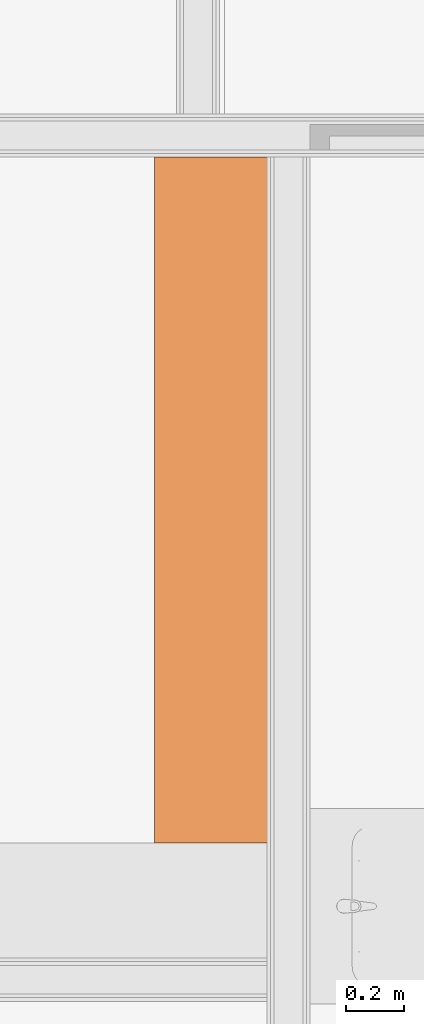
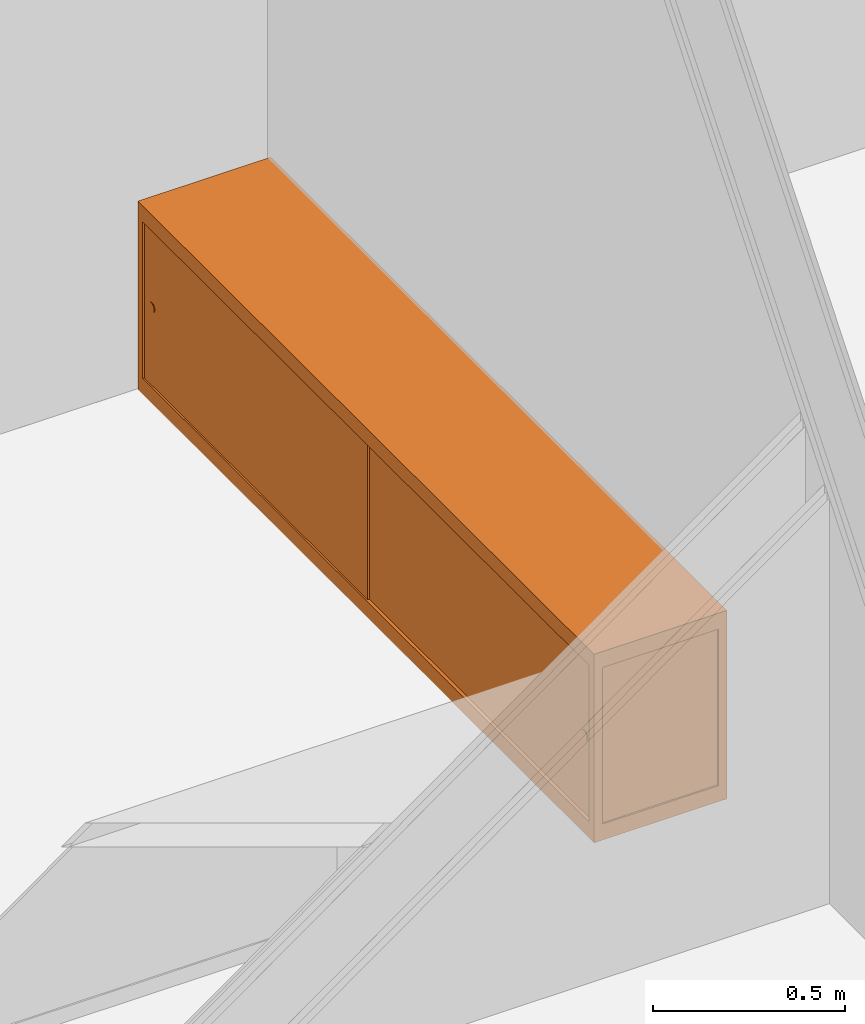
# One storey, part 109 of 109: 1 proxy.
"""IFC2X3 building model written with IfcOpenShell, lengths in millimetres."""

import ifcopenshell
import ifcopenshell.guid

model = None  # the IFC model being written
_history = None  # IfcOwnerHistory: only IFC2X3 demands one
_inside = {}  # id of a spatial element -> (the spatial element, [elements in it])
_under = {}  # id of a project, library or spatial element -> (it, [spatial elements below it])
_declared = {}  # id of a project -> (the project, [libraries it declares])
_typed = {}  # id of a type object -> (the type object, [elements of that type])
_made_of = {}  # id of a material, layer set ... -> (it, [elements and type objects made of it])


def new_model(schema):
    """Start an empty IFC model of exactly this schema.

    Asked for "IFC4X3", IfcOpenShell would pick the latest addendum, in which some entities
    have other attributes; the version numbers below select the first issue.
    IFC2X3 requires an IfcOwnerHistory on every rooted entity: one is made here for all.
    """
    global model, _history
    if schema == "IFC4X3":
        model = ifcopenshell.file(schema_version=(4, 3, 0, 0))
    else:
        model = ifcopenshell.file(schema=schema)
    _inside.clear()
    _under.clear()
    _declared.clear()
    _typed.clear()
    _made_of.clear()
    _history = None
    if model.schema == "IFC2X3":
        org = make("IfcOrganization", Name="unknown")
        user = make(
            "IfcPersonAndOrganization",
            ThePerson=make("IfcPerson", FamilyName="unknown"),
            TheOrganization=org,
        )
        app = make(
            "IfcApplication",
            ApplicationDeveloper=org,
            Version="unknown",
            ApplicationFullName="unknown",
            ApplicationIdentifier="unknown",
        )
        _history = make(
            "IfcOwnerHistory",
            OwningUser=user,
            OwningApplication=app,
            ChangeAction="ADDED",
            CreationDate=0,
        )
    return model


def make(cls, **values):
    """One entity of the class cls with the attributes given. An attribute that is None is left unset."""
    return model.create_entity(
        cls, **{name: value for name, value in values.items() if value is not None}
    )


def entity(cls, *values):
    """Any entity or typed value of the class cls, its attributes in the order of the schema. None: left unset."""
    e = model.create_entity(cls)
    for i, value in enumerate(values):
        if value is not None:
            e[i] = value
    return e


def rooted(cls, **values):
    """An entity with a GlobalId (a new one), such as an element, a storey or a relation."""
    return make(cls, GlobalId=ifcopenshell.guid.new(), OwnerHistory=_history, **values)


def si_unit(unit_type, name, prefix=None):
    """IfcSIUnit, for example si_unit("LENGTHUNIT", "METRE", prefix="MILLI")."""
    return make("IfcSIUnit", UnitType=unit_type, Prefix=prefix, Name=name)


def converted_unit(unit_type, name, factor, base, dimensions=None, offset=None):
    """IfcConversionBasedUnit, such as the inch: factor (a typed value) times the base unit."""
    return make(
        "IfcConversionBasedUnit"
        if offset is None
        else "IfcConversionBasedUnitWithOffset",
        ConversionOffset=offset,
        Dimensions=None
        if dimensions is None
        else entity("IfcDimensionalExponents", *dimensions),
        UnitType=unit_type,
        Name=name,
        ConversionFactor=make(
            "IfcMeasureWithUnit", ValueComponent=factor, UnitComponent=base
        ),
    )


def derived_unit(unit_type, elements):
    """IfcDerivedUnit: a product of units, each with its exponent."""
    return make(
        "IfcDerivedUnit",
        Elements=[
            make("IfcDerivedUnitElement", Unit=unit, Exponent=power)
            for unit, power in elements
        ],
        UnitType=unit_type,
    )


def money_unit(currency):
    """IfcMonetaryUnit."""
    return make("IfcMonetaryUnit", Currency=currency)


def assignment(units):
    """IfcUnitAssignment: the units of a project."""
    return None if units is None else make("IfcUnitAssignment", Units=units)


def point(xyz):
    """IfcCartesianPoint."""
    return None if xyz is None else make("IfcCartesianPoint", Coordinates=xyz)


def direction(xyz):
    """IfcDirection."""
    return None if xyz is None else make("IfcDirection", DirectionRatios=xyz)


def frame(location, z_axis=None, x_axis=None):
    """IfcAxis2Placement3D, a coordinate frame: its origin and axes. An axis left out is left unset."""
    return make(
        "IfcAxis2Placement3D",
        Location=point(location),
        Axis=direction(z_axis),
        RefDirection=direction(x_axis),
    )


def origin_with_axes():
    """The frame at (0, 0, 0) with the z axis (0, 0, 1) and the x axis (1, 0, 0) written out."""
    return frame((0.0, 0.0, 0.0), z_axis=(0.0, 0.0, 1.0), x_axis=(1.0, 0.0, 0.0))


def place(relative_to, where):
    """IfcLocalPlacement: puts the frame where relative to a parent placement (None: the world)."""
    return make(
        "IfcLocalPlacement", PlacementRelTo=relative_to, RelativePlacement=where
    )


def context(
    kind, dimensions, precision=None, world=None, true_north=None, identifier=None
):
    """IfcGeometricRepresentationContext, for example the 3D "Model" context."""
    return make(
        "IfcGeometricRepresentationContext",
        ContextIdentifier=identifier,
        ContextType=kind,
        CoordinateSpaceDimension=dimensions,
        Precision=precision,
        WorldCoordinateSystem=world,
        TrueNorth=true_north,
    )


def subcontext(parent, identifier, kind, view, scale=None):
    """IfcGeometricRepresentationSubContext, for example "Body" below "Model"."""
    return make(
        "IfcGeometricRepresentationSubContext",
        ContextIdentifier=identifier,
        ContextType=kind,
        ParentContext=parent,
        TargetScale=scale,
        TargetView=view,
    )


def project(units=None, contexts=None):
    """IfcProject with its units and contexts."""
    return rooted(
        "IfcProject",
        Name="project",
        RepresentationContexts=contexts,
        UnitsInContext=assignment(units),
    )


def spatial(cls, under=None, at=None, **own):
    """A site, building, storey or space (cls), placed at a placement, below another one or the project."""
    s = rooted(cls, ObjectPlacement=at, **own)
    if under is not None:
        _under.setdefault(under.id(), (under, []))[1].append(s)
    return s


def faces_of(points, faces, orient=None, outer=None):
    """IfcFace entities. A face is a list of loops; a loop is a list of indices into points, from 0.

    orient and outer hold one flag for each loop. By default every Orientation is true, the
    first loop of a face is its IfcFaceOuterBound and the others are IfcFaceBound.
    """
    made = []
    for i, loops in enumerate(faces):
        bounds = []
        for j, loop in enumerate(loops):
            is_outer = j == 0 if outer is None else outer[i][j]
            bounds.append(
                make(
                    "IfcFaceOuterBound" if is_outer else "IfcFaceBound",
                    Bound=make("IfcPolyLoop", Polygon=[points[k] for k in loop]),
                    Orientation=True if orient is None else orient[i][j],
                )
            )
        made.append(make("IfcFace", Bounds=bounds))
    return made


def faceted_brep(points, faces, orient=None, outer=None, voids=None):
    """IfcFacetedBrep: a solid bounded by flat faces; with voids (closed shells), ...WithVoids."""
    shared = [point(p) for p in points]
    hull = make("IfcClosedShell", CfsFaces=faces_of(shared, faces, orient, outer))
    if voids is None:
        return make("IfcFacetedBrep", Outer=hull)
    return make(
        "IfcFacetedBrepWithVoids",
        Outer=hull,
        Voids=[
            make(cls, CfsFaces=faces_of(shared, fs, o, b)) for cls, fs, o, b in voids
        ],
    )


def shape(context_of_items, identifier, shape_type, items):
    """IfcShapeRepresentation: the items that make up one representation, for example the "Body"."""
    return make(
        "IfcShapeRepresentation",
        ContextOfItems=context_of_items,
        RepresentationIdentifier=identifier,
        RepresentationType=shape_type,
        Items=items,
    )


def made_of(thing, what):
    """Note that an element or type object is made of a material, layer set ...; save() writes the relation."""
    if what is not None:
        _made_of.setdefault(what.id(), (what, []))[1].append(thing)
    return thing


def type_object(cls, material=None, **own):
    """A type object (cls), such as IfcWallType, which elements share."""
    return made_of(rooted(cls, **own), material)


def element(
    cls,
    number,
    at=None,
    inside=None,
    cuts=None,
    type_object=None,
    material=None,
    context=None,
    identifier="Body",
    shape_type=None,
    held_by="IfcProductDefinitionShape",
    body=None,
    shapes=None,
    **own,
):
    """One element of the class cls, such as IfcWall. Its Tag is "e" and its number.

    at: its placement. inside: the storey or other place that contains it. cuts: it is an
    opening in that element (IfcRelVoidsElement). A single representation is given by context,
    identifier, shape_type and body (its items); several are given by shapes. held_by: the class
    of the entity that holds the representations. save() writes the other relations.
    """
    e = rooted(cls, Tag="e%d" % number, ObjectPlacement=at, **own)
    if body is not None:
        shapes = [shape(context, identifier, shape_type, body)]
    if shapes is not None:
        e.Representation = make(held_by, Representations=shapes)
    if inside is not None:
        _inside.setdefault(inside.id(), (inside, []))[1].append(e)
    if cuts is not None:
        rooted(
            "IfcRelVoidsElement", RelatingBuildingElement=cuts, RelatedOpeningElement=e
        )
    if type_object is not None:
        _typed.setdefault(type_object.id(), (type_object, []))[1].append(e)
    return made_of(e, material)


def aggregate(whole, parts):
    """IfcRelAggregates: a whole, such as a stair, and the parts it consists of."""
    return rooted("IfcRelAggregates", RelatingObject=whole, RelatedObjects=parts)


def save(model, path):
    """Write the relations noted so far, then the file.

    IfcRelAggregates (storeys below a building ...), IfcRelContainedInSpatialStructure (elements
    in a storey), IfcRelDefinesByType, IfcRelAssociatesMaterial and IfcRelDeclares: one each for
    every whole, place, type object, material and project.
    """
    for whole, parts in _under.values():
        aggregate(whole, parts)
    for where, things in _inside.values():
        rooted(
            "IfcRelContainedInSpatialStructure",
            RelatedElements=things,
            RelatingStructure=where,
        )
    for kind, things in _typed.values():
        rooted("IfcRelDefinesByType", RelatedObjects=things, RelatingType=kind)
    for what, things in _made_of.values():
        rooted("IfcRelAssociatesMaterial", RelatedObjects=things, RelatingMaterial=what)
    for by, libraries in _declared.values():
        rooted("IfcRelDeclares", RelatingContext=by, RelatedDefinitions=libraries)
    model.write(path)


model = new_model("IFC2X3")

# Units and contexts
model_context = context("Model", 3, precision=0.01, world=origin_with_axes(), true_north=direction((0.0, 1.0)))
body_context = subcontext(model_context, "Body", "Model", "MODEL_VIEW")
ifc_project = project(units=[si_unit("LENGTHUNIT", "METRE", prefix="MILLI"), si_unit("AREAUNIT", "SQUARE_METRE"), si_unit("VOLUMEUNIT", "CUBIC_METRE"), converted_unit("PLANEANGLEUNIT", "DEGREE", entity("IfcPlaneAngleMeasure", 0.0174532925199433), si_unit("PLANEANGLEUNIT", "RADIAN"), dimensions=[0, 0, 0, 0, 0, 0, 0]), money_unit("EUR"), converted_unit("TIMEUNIT", "Year", entity("IfcTimeMeasure", 31557600.0), si_unit("TIMEUNIT", "SECOND"), dimensions=[0, 0, 1, 0, 0, 0, 0]), si_unit("MASSUNIT", "GRAM", prefix="KILO"), si_unit("THERMODYNAMICTEMPERATUREUNIT", "DEGREE_CELSIUS"), si_unit("LUMINOUSINTENSITYUNIT", "LUMEN"), si_unit("ENERGYUNIT", "JOULE", prefix="MEGA"), derived_unit("THERMALCONDUCTANCEUNIT", [(si_unit("POWERUNIT", "WATT"), 1), (si_unit("LENGTHUNIT", "METRE"), -1), (si_unit("THERMODYNAMICTEMPERATUREUNIT", "KELVIN"), -1)]), derived_unit("SPECIFICHEATCAPACITYUNIT", [(si_unit("ENERGYUNIT", "JOULE"), 1), (si_unit("MASSUNIT", "GRAM", prefix="KILO"), -1), (si_unit("THERMODYNAMICTEMPERATUREUNIT", "KELVIN"), -1)]), derived_unit("MASSDENSITYUNIT", [(si_unit("MASSUNIT", "GRAM", prefix="KILO"), 1), (si_unit("VOLUMEUNIT", "CUBIC_METRE"), -1)])], contexts=[model_context])

# Site, building, storey
site_placement = place(None, origin_with_axes())
site = spatial("IfcSite", under=ifc_project, at=site_placement, Name="<site naam>", CompositionType="ELEMENT")
building_placement = place(site_placement, origin_with_axes())
building = spatial("IfcBuilding", under=site, at=building_placement, Name="<Naam gebouw>", CompositionType="ELEMENT")
storey_placement = place(building_placement, origin_with_axes())
storey = spatial("IfcBuildingStorey", under=building, at=storey_placement, Name="00 Begane grond", CompositionType="ELEMENT", Elevation=0.0)

# Proxy
building_element_proxy_type = type_object("IfcBuildingElementProxyType", Name="Boekenkast 04 27 KM", PredefinedType="USERDEFINED")
proxy_placement = place(storey_placement, frame((55300.00002384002, 13544.99999810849, 0.0), z_axis=(0.0, 0.0, 1.0), x_axis=(0.0, -1.0, 0.0)))
element("IfcBuildingElementProxy", 1, at=proxy_placement, inside=storey, type_object=building_element_proxy_type, Name="72_Brandslanghaspelkast_Lege", ObjectType="Massing", context=body_context, shape_type="Brep", body=[
    faceted_brep([(0.0, 0.0, 0.0), (0.0, 0.0, 600.0), (-25.4, 0.0, 600.0), (-25.4, 0.0, 0.0), (0.0, 25.4, 0.0), (0.0, 25.4, 600.0), (-5.0, 25.4, 600.0), (-5.0, 5.0, 600.0), (-25.4, 5.0, 600.0), (-25.4, 5.0, 0.0), (-5.0, 5.0, 0.0), (-5.0, 25.4, 0.0)], [[[0, 1, 2, 3]], [[4, 5, 1, 0]], [[1, 5, 6, 7, 8, 2]], [[3, 2, 8, 9]], [[0, 3, 9, 10, 11, 4]], [[11, 6, 5, 4]], [[10, 7, 6, 11]], [[9, 8, 7, 10]]]),
    faceted_brep([(-2379.999781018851, 25.4, 0.0), (-2379.999781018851, 25.4, 600.0), (-2374.999781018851, 25.4, 600.0), (-2374.999781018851, 25.4, 0.0), (-2379.999781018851, 0.0, 0.0), (-2379.999781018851, 0.0, 600.0), (-2354.599781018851, 0.0, 600.0), (-2354.599781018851, 5.0, 600.0), (-2374.999781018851, 5.0, 600.0), (-2374.999781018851, 5.0, 0.0), (-2354.599781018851, 5.0, 0.0), (-2354.599781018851, 0.0, 0.0)], [[[0, 1, 2, 3]], [[4, 5, 1, 0]], [[1, 5, 6, 7, 8, 2]], [[3, 2, 8, 9]], [[0, 3, 9, 10, 11, 4]], [[11, 6, 5, 4]], [[10, 7, 6, 11]], [[9, 8, 7, 10]]]),
    faceted_brep([(0.0, 374.5999701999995, 0.0), (0.0, 374.5999701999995, 600.0), (-5.0, 374.5999701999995, 600.0), (-5.0, 374.5999701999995, 0.0), (0.0, 399.9999701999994, 0.0), (0.0, 399.9999701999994, 600.0), (-25.4, 399.9999701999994, 600.0), (-25.4, 394.9999701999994, 600.0), (-5.0, 394.9999701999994, 600.0), (-5.0, 394.9999701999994, 0.0), (-25.4, 394.9999701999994, 0.0), (-25.4, 399.9999701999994, 0.0)], [[[0, 1, 2, 3]], [[4, 5, 1, 0]], [[1, 5, 6, 7, 8, 2]], [[3, 2, 8, 9]], [[0, 3, 9, 10, 11, 4]], [[11, 6, 5, 4]], [[10, 7, 6, 11]], [[9, 8, 7, 10]]]),
    faceted_brep([(-2379.999781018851, 399.9999701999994, 0.0), (-2379.999781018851, 399.9999701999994, 600.0), (-2354.599781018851, 399.9999701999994, 600.0), (-2354.599781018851, 399.9999701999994, 0.0), (-2379.999781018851, 374.5999701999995, 0.0), (-2379.999781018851, 374.5999701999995, 600.0), (-2374.999781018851, 374.5999701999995, 600.0), (-2374.999781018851, 394.9999701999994, 600.0), (-2354.599781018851, 394.9999701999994, 600.0), (-2354.599781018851, 394.9999701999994, 0.0), (-2374.999781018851, 394.9999701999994, 0.0), (-2374.999781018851, 374.5999701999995, 0.0)], [[[0, 1, 2, 3]], [[4, 5, 1, 0]], [[1, 5, 6, 7, 8, 2]], [[3, 2, 8, 9]], [[0, 3, 9, 10, 11, 4]], [[11, 6, 5, 4]], [[10, 7, 6, 11]], [[9, 8, 7, 10]]]),
    faceted_brep([(-5.0, 394.9999701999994, 0.0), (-5.0, 389.9999701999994, 0.0), (-2374.999781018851, 389.9999701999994, 0.0), (-2374.999781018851, 394.9999701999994, 0.0), (-5.0, 394.9999701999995, 549.2), (-5.0, 389.9999701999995, 549.2), (-2374.999781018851, 389.9999701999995, 549.2), (-2374.999781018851, 394.9999701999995, 549.2)], [[[0, 1, 2, 3]], [[4, 5, 1, 0]], [[1, 5, 6, 2]], [[3, 2, 6, 7]], [[0, 3, 7, 4]], [[7, 6, 5, 4]]]),
    faceted_brep([(-10.0, 389.9999701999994, 0.0), (-5.0, 389.9999701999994, 0.0), (-5.000000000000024, 5.000000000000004, 0.0), (-10.00000000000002, 5.000000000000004, 0.0), (-10.0, 389.9999701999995, 549.2), (-5.0, 389.9999701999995, 549.2), (-5.000000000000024, 5.00000000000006, 549.2), (-10.00000000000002, 5.00000000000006, 549.2)], [[[0, 1, 2, 3]], [[4, 5, 1, 0]], [[1, 5, 6, 2]], [[3, 2, 6, 7]], [[0, 3, 7, 4]], [[7, 6, 5, 4]]]),
    faceted_brep([(-2374.99978101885, 389.9999701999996, 0.0), (-2369.999781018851, 389.9999701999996, 0.0), (-2369.999781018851, 5.000000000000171, 0.0), (-2374.99978101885, 5.000000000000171, 0.0), (-2374.99978101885, 389.9999701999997, 549.2), (-2369.999781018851, 389.9999701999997, 549.2), (-2369.999781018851, 5.000000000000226, 549.2), (-2374.99978101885, 5.000000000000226, 549.2)], [[[0, 1, 2, 3]], [[4, 5, 1, 0]], [[1, 5, 6, 2]], [[3, 2, 6, 7]], [[0, 3, 7, 4]], [[7, 6, 5, 4]]]),
    faceted_brep([(-10.0, 10.0, 50.8), (-10.0, 10.0, 549.1999999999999), (-1189.999890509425, 10.0, 549.1999999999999), (-1189.999890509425, 10.0, 50.8), (-10.0, 15.0, 50.8), (-10.0, 15.0, 549.1999999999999), (-1189.999890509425, 15.0, 549.1999999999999), (-1189.999890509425, 15.0, 50.8)], [[[0, 1, 2, 3]], [[4, 5, 1, 0]], [[1, 5, 6, 2]], [[3, 2, 6, 7]], [[0, 3, 7, 4]], [[7, 6, 5, 4]]]),
    faceted_brep([(-1189.999890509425, 5.0, 50.8), (-1189.999890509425, 5.0, 549.1999999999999), (-2369.999781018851, 5.0, 549.1999999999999), (-2369.999781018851, 5.0, 50.8), (-1189.999890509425, 10.0, 50.8), (-1189.999890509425, 10.0, 549.1999999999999), (-2369.999781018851, 10.0, 549.1999999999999), (-2369.999781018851, 10.0, 50.8)], [[[0, 1, 2, 3]], [[4, 5, 1, 0]], [[1, 5, 6, 2]], [[3, 2, 6, 7]], [[0, 3, 7, 4]], [[7, 6, 5, 4]]]),
    faceted_brep([(-80.17211629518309, 10.00000000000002, 297.395277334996), (-80.4, 10.00000000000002, 300.0), (-80.17211629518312, 10.00000000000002, 302.6047226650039), (-79.49538931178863, 10.00000000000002, 305.130302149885), (-78.39038105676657, 10.00000000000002, 307.5), (-76.89066664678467, 10.00000000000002, 309.641814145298), (-75.04181414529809, 10.00000000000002, 311.4906666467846), (-72.89999999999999, 10.00000000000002, 312.9903810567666), (-70.53030214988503, 10.00000000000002, 314.0953893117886), (-68.00472266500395, 10.00000000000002, 314.7721162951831), (-65.4, 10.00000000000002, 315.0), (-62.79527733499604, 10.00000000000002, 314.7721162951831), (-60.26969785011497, 10.00000000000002, 314.0953893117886), (-57.90000000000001, 10.00000000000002, 312.9903810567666), (-55.75818585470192, 10.00000000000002, 311.4906666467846), (-53.90933335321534, 10.00000000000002, 309.641814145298), (-52.40961894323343, 10.00000000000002, 307.5), (-51.30461068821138, 10.00000000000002, 305.130302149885), (-50.62788370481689, 10.00000000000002, 302.6047226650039), (-50.40000000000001, 10.00000000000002, 300.0), (-50.62788370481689, 10.00000000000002, 297.395277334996), (-51.30461068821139, 10.00000000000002, 294.869697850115), (-52.40961894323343, 10.00000000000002, 292.5), (-53.90933335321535, 10.00000000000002, 290.3581858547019), (-55.75818585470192, 10.00000000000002, 288.5093333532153), (-57.90000000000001, 10.00000000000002, 287.0096189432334), (-60.26969785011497, 10.00000000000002, 285.9046106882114), (-62.79527733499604, 10.00000000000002, 285.2278837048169), (-65.4, 10.00000000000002, 285.0000000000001), (-68.00472266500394, 10.00000000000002, 285.2278837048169), (-70.53030214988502, 10.00000000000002, 285.9046106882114), (-72.89999999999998, 10.00000000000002, 287.0096189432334), (-75.04181414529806, 10.00000000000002, 288.5093333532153), (-76.89066664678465, 10.00000000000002, 290.3581858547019), (-78.39038105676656, 10.00000000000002, 292.5), (-79.4953893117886, 10.00000000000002, 294.869697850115), (-80.17211629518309, 8.00000000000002, 297.395277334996), (-80.4, 8.00000000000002, 300.0), (-80.17211629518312, 8.00000000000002, 302.6047226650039), (-79.49538931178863, 8.00000000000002, 305.130302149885), (-78.39038105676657, 8.00000000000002, 307.5), (-76.89066664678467, 8.00000000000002, 309.641814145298), (-75.04181414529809, 8.000000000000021, 311.4906666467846), (-72.89999999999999, 8.000000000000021, 312.9903810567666), (-70.53030214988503, 8.000000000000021, 314.0953893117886), (-68.00472266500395, 8.000000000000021, 314.7721162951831), (-65.4, 8.000000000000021, 315.0), (-62.79527733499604, 8.000000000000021, 314.7721162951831), (-60.26969785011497, 8.000000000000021, 314.0953893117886), (-57.90000000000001, 8.000000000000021, 312.9903810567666), (-55.75818585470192, 8.000000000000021, 311.4906666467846), (-53.90933335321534, 8.00000000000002, 309.641814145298), (-52.40961894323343, 8.00000000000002, 307.5), (-51.30461068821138, 8.00000000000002, 305.130302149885), (-50.62788370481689, 8.00000000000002, 302.6047226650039), (-50.40000000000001, 8.00000000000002, 300.0), (-50.62788370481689, 8.00000000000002, 297.395277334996), (-51.30461068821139, 8.00000000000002, 294.869697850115), (-52.40961894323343, 8.00000000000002, 292.5), (-53.90933335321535, 8.00000000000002, 290.3581858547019), (-55.75818585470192, 8.000000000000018, 288.5093333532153), (-57.90000000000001, 8.000000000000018, 287.0096189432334), (-60.26969785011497, 8.000000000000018, 285.9046106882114), (-62.79527733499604, 8.000000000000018, 285.2278837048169), (-65.4, 8.000000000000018, 285.0000000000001), (-68.00472266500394, 8.000000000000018, 285.2278837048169), (-70.53030214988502, 8.000000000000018, 285.9046106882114), (-72.89999999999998, 8.000000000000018, 287.0096189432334), (-75.04181414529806, 8.000000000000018, 288.5093333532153), (-76.89066664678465, 8.00000000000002, 290.3581858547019), (-78.39038105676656, 8.00000000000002, 292.5), (-79.4953893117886, 8.00000000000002, 294.869697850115)], [[[0, 1, 2, 3, 4, 5, 6, 7, 8, 9, 10, 11, 12, 13, 14, 15, 16, 17, 18, 19, 20, 21, 22, 23, 24, 25, 26, 27, 28, 29, 30, 31, 32, 33, 34, 35]], [[0, 36, 37, 1]], [[1, 37, 38, 2]], [[2, 38, 39, 3]], [[3, 39, 40, 4]], [[4, 40, 41, 5]], [[5, 41, 42, 6]], [[6, 42, 43, 7]], [[7, 43, 44, 8]], [[8, 44, 45, 9]], [[9, 45, 46, 10]], [[10, 46, 47, 11]], [[11, 47, 48, 12]], [[12, 48, 49, 13]], [[13, 49, 50, 14]], [[14, 50, 51, 15]], [[15, 51, 52, 16]], [[16, 52, 53, 17]], [[17, 53, 54, 18]], [[18, 54, 55, 19]], [[19, 55, 56, 20]], [[20, 56, 57, 21]], [[21, 57, 58, 22]], [[22, 58, 59, 23]], [[23, 59, 60, 24]], [[24, 60, 61, 25]], [[25, 61, 62, 26]], [[26, 62, 63, 27]], [[27, 63, 64, 28]], [[28, 64, 65, 29]], [[29, 65, 66, 30]], [[30, 66, 67, 31]], [[31, 67, 68, 32]], [[32, 68, 69, 33]], [[33, 69, 70, 34]], [[34, 70, 71, 35]], [[35, 71, 36, 0]], [[36, 71, 70, 69, 68, 67, 66, 65, 64, 63, 62, 61, 60, 59, 58, 57, 56, 55, 54, 53, 52, 51, 50, 49, 48, 47, 46, 45, 44, 43, 42, 41, 40, 39, 38, 37]]]),
    faceted_brep([(-2329.371897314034, 5.00000000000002, 297.395277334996), (-2329.599781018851, 5.00000000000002, 300.0), (-2329.371897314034, 5.00000000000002, 302.6047226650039), (-2328.695170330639, 5.00000000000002, 305.130302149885), (-2327.590162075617, 5.00000000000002, 307.5), (-2326.090447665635, 5.00000000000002, 309.641814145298), (-2324.241595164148, 5.00000000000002, 311.4906666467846), (-2322.09978101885, 5.00000000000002, 312.9903810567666), (-2319.730083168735, 5.00000000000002, 314.0953893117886), (-2317.204503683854, 5.00000000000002, 314.7721162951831), (-2314.599781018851, 5.00000000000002, 315.0), (-2311.995058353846, 5.00000000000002, 314.7721162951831), (-2309.469478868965, 5.00000000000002, 314.0953893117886), (-2307.099781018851, 5.00000000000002, 312.9903810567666), (-2304.957966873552, 5.00000000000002, 311.4906666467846), (-2303.109114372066, 5.00000000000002, 309.641814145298), (-2301.609399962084, 5.00000000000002, 307.5), (-2300.504391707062, 5.00000000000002, 305.130302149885), (-2299.827664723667, 5.00000000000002, 302.6047226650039), (-2299.59978101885, 5.00000000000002, 300.0), (-2299.827664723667, 5.00000000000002, 297.395277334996), (-2300.504391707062, 5.00000000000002, 294.869697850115), (-2301.609399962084, 5.000000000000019, 292.5), (-2303.109114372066, 5.000000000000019, 290.3581858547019), (-2304.957966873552, 5.000000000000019, 288.5093333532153), (-2307.099781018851, 5.000000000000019, 287.0096189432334), (-2309.469478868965, 5.000000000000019, 285.9046106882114), (-2311.995058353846, 5.000000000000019, 285.2278837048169), (-2314.599781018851, 5.000000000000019, 285.0000000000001), (-2317.204503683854, 5.000000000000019, 285.2278837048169), (-2319.730083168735, 5.000000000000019, 285.9046106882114), (-2322.09978101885, 5.000000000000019, 287.0096189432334), (-2324.241595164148, 5.000000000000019, 288.5093333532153), (-2326.090447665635, 5.000000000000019, 290.3581858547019), (-2327.590162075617, 5.000000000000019, 292.5), (-2328.695170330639, 5.00000000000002, 294.869697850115), (-2329.371897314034, 3.000000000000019, 297.395277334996), (-2329.599781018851, 3.000000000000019, 300.0), (-2329.371897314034, 3.000000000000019, 302.6047226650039), (-2328.695170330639, 3.00000000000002, 305.130302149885), (-2327.590162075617, 3.00000000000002, 307.5), (-2326.090447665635, 3.00000000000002, 309.641814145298), (-2324.241595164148, 3.00000000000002, 311.4906666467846), (-2322.09978101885, 3.00000000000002, 312.9903810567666), (-2319.730083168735, 3.00000000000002, 314.0953893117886), (-2317.204503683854, 3.00000000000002, 314.7721162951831), (-2314.599781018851, 3.00000000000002, 315.0), (-2311.995058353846, 3.00000000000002, 314.7721162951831), (-2309.469478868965, 3.00000000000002, 314.0953893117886), (-2307.099781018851, 3.00000000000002, 312.9903810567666), (-2304.957966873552, 3.00000000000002, 311.4906666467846), (-2303.109114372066, 3.00000000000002, 309.641814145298), (-2301.609399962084, 3.00000000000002, 307.5), (-2300.504391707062, 3.00000000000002, 305.130302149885), (-2299.827664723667, 3.000000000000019, 302.6047226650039), (-2299.59978101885, 3.000000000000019, 300.0), (-2299.827664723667, 3.000000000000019, 297.395277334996), (-2300.504391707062, 3.000000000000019, 294.869697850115), (-2301.609399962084, 3.000000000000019, 292.5), (-2303.109114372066, 3.000000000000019, 290.3581858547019), (-2304.957966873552, 3.000000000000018, 288.5093333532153), (-2307.099781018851, 3.000000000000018, 287.0096189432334), (-2309.469478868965, 3.000000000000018, 285.9046106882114), (-2311.995058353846, 3.000000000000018, 285.2278837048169), (-2314.599781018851, 3.000000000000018, 285.0000000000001), (-2317.204503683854, 3.000000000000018, 285.2278837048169), (-2319.730083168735, 3.000000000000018, 285.9046106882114), (-2322.09978101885, 3.000000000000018, 287.0096189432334), (-2324.241595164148, 3.000000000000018, 288.5093333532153), (-2326.090447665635, 3.000000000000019, 290.3581858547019), (-2327.590162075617, 3.000000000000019, 292.5), (-2328.695170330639, 3.000000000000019, 294.869697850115)], [[[0, 1, 2, 3, 4, 5, 6, 7, 8, 9, 10, 11, 12, 13, 14, 15, 16, 17, 18, 19, 20, 21, 22, 23, 24, 25, 26, 27, 28, 29, 30, 31, 32, 33, 34, 35]], [[0, 36, 37, 1]], [[1, 37, 38, 2]], [[2, 38, 39, 3]], [[3, 39, 40, 4]], [[4, 40, 41, 5]], [[5, 41, 42, 6]], [[6, 42, 43, 7]], [[7, 43, 44, 8]], [[8, 44, 45, 9]], [[9, 45, 46, 10]], [[10, 46, 47, 11]], [[11, 47, 48, 12]], [[12, 48, 49, 13]], [[13, 49, 50, 14]], [[14, 50, 51, 15]], [[15, 51, 52, 16]], [[16, 52, 53, 17]], [[17, 53, 54, 18]], [[18, 54, 55, 19]], [[19, 55, 56, 20]], [[20, 56, 57, 21]], [[21, 57, 58, 22]], [[22, 58, 59, 23]], [[23, 59, 60, 24]], [[24, 60, 61, 25]], [[25, 61, 62, 26]], [[26, 62, 63, 27]], [[27, 63, 64, 28]], [[28, 64, 65, 29]], [[29, 65, 66, 30]], [[30, 66, 67, 31]], [[31, 67, 68, 32]], [[32, 68, 69, 33]], [[33, 69, 70, 34]], [[34, 70, 71, 35]], [[35, 71, 36, 0]], [[36, 71, 70, 69, 68, 67, 66, 65, 64, 63, 62, 61, 60, 59, 58, 57, 56, 55, 54, 53, 52, 51, 50, 49, 48, 47, 46, 45, 44, 43, 42, 41, 40, 39, 38, 37]]]),
    faceted_brep([(-25.4, 399.9999701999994, 0.0), (-25.4, 399.9999701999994, 50.8), (-25.4, 394.9999701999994, 50.8), (-25.4, 394.9999701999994, 0.0), (-2354.599781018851, 399.9999701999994, 0.0), (-2354.599781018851, 399.9999701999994, 50.8), (-2354.599781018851, 394.9999701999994, 50.8), (-2354.599781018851, 394.9999701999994, 0.0)], [[[0, 1, 2, 3]], [[4, 5, 1, 0]], [[1, 5, 6, 2]], [[3, 2, 6, 7]], [[0, 3, 7, 4]], [[7, 6, 5, 4]]]),
    faceted_brep([(0.0, 25.4, 0.0), (0.0, 25.4, 50.8), (-5.0, 25.4, 50.8), (-5.0, 25.4, 0.0), (0.0, 374.5999701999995, 0.0), (0.0, 374.5999701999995, 50.8), (-5.0, 374.5999701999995, 50.8), (-5.0, 374.5999701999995, 0.0)], [[[0, 1, 2, 3]], [[4, 5, 1, 0]], [[1, 5, 6, 2]], [[3, 2, 6, 7]], [[0, 3, 7, 4]], [[7, 6, 5, 4]]]),
    faceted_brep([(-2379.999781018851, 374.5999701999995, 0.0), (-2379.999781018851, 374.5999701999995, 50.8), (-2374.999781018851, 374.5999701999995, 50.8), (-2374.999781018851, 374.5999701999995, 0.0), (-2379.999781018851, 25.4, 0.0), (-2379.999781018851, 25.4, 50.8), (-2374.999781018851, 25.4, 50.8), (-2374.999781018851, 25.4, 0.0)], [[[0, 1, 2, 3]], [[4, 5, 1, 0]], [[1, 5, 6, 2]], [[3, 2, 6, 7]], [[0, 3, 7, 4]], [[7, 6, 5, 4]]]),
    faceted_brep([(-2354.599781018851, 0.0, 0.0), (-2354.599781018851, 0.0, 50.8), (-2354.599781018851, 5.0, 50.8), (-2354.599781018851, 5.0, 0.0), (-25.4, 0.0, 0.0), (-25.4, 0.0, 50.8), (-25.4, 5.0, 50.8), (-10.0, 5.0, 50.8), (-10.0, 20.0, 50.8), (-2369.999781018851, 20.0, 50.8), (-2369.999781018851, 5.0, 50.8), (-2369.999781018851, 5.0, 0.0), (-2369.999781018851, 20.0, 0.0), (-10.0, 20.0, 0.0), (-10.0, 5.0, 0.0), (-25.4, 5.0, 0.0)], [[[0, 1, 2, 3]], [[4, 5, 1, 0]], [[1, 5, 6, 7, 8, 9, 10, 2]], [[3, 2, 10, 11]], [[0, 3, 11, 12, 13, 14, 15, 4]], [[15, 6, 5, 4]], [[14, 7, 6, 15]], [[13, 8, 7, 14]], [[12, 9, 8, 13]], [[11, 10, 9, 12]]]),
    faceted_brep([(-10.0, 10.0, 549.2), (-10.0, 10.0, 600.0), (-2369.999781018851, 10.0, 600.0), (-2369.999781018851, 10.0, 549.2), (-10.0, 389.9999701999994, 549.2), (-10.0, 389.9999701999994, 600.0), (-2369.999781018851, 389.9999701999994, 600.0), (-2369.999781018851, 389.9999701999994, 549.2)], [[[0, 1, 2, 3]], [[4, 5, 1, 0]], [[1, 5, 6, 2]], [[3, 2, 6, 7]], [[0, 3, 7, 4]], [[7, 6, 5, 4]]]),
    faceted_brep([(0.0, 25.4, 549.2), (0.0, 25.4, 600.0), (-5.0, 25.4, 600.0), (-5.0, 25.4, 549.2), (0.0, 374.5999701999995, 549.2), (0.0, 374.5999701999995, 600.0), (-5.0, 374.5999701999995, 600.0), (-5.0, 394.9999701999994, 600.0), (-10.0, 389.9999701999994, 600.0), (-10.0, 10.0, 600.0), (-5.0, 5.0, 600.0), (-5.0, 5.0, 549.2), (-10.0, 10.0, 549.2), (-10.0, 389.9999701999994, 549.2), (-5.0, 394.9999701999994, 549.2), (-5.0, 374.5999701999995, 549.2)], [[[0, 1, 2, 3]], [[4, 5, 1, 0]], [[1, 5, 6, 7, 8, 9, 10, 2]], [[3, 2, 10, 11]], [[0, 3, 11, 12, 13, 14, 15, 4]], [[15, 6, 5, 4]], [[14, 7, 6, 15]], [[13, 8, 7, 14]], [[12, 9, 8, 13]], [[11, 10, 9, 12]]]),
    faceted_brep([(-2379.999781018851, 374.5999701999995, 549.2), (-2379.999781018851, 374.5999701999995, 600.0), (-2374.999781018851, 374.5999701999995, 600.0), (-2374.999781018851, 374.5999701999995, 549.2), (-2379.999781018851, 25.4, 549.2), (-2379.999781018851, 25.4, 600.0), (-2374.999781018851, 25.4, 600.0), (-2374.999781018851, 5.0, 600.0), (-2369.999781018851, 10.0, 600.0), (-2369.999781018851, 389.9999701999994, 600.0), (-2374.999781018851, 394.9999701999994, 600.0), (-2374.999781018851, 394.9999701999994, 549.2), (-2369.999781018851, 389.9999701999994, 549.2), (-2369.999781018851, 10.0, 549.2), (-2374.999781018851, 5.0, 549.2), (-2374.999781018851, 25.4, 549.2)], [[[0, 1, 2, 3]], [[4, 5, 1, 0]], [[1, 5, 6, 7, 8, 9, 10, 2]], [[3, 2, 10, 11]], [[0, 3, 11, 12, 13, 14, 15, 4]], [[15, 6, 5, 4]], [[14, 7, 6, 15]], [[13, 8, 7, 14]], [[12, 9, 8, 13]], [[11, 10, 9, 12]]]),
    faceted_brep([(-2354.599781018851, 0.0, 549.2), (-2354.599781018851, 0.0, 600.0), (-2354.599781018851, 5.0, 600.0), (-2354.599781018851, 5.0, 549.2), (-25.4, 0.0, 549.2), (-25.4, 0.0, 600.0), (-25.4, 5.0, 600.0), (-5.0, 5.0, 600.0), (-10.0, 10.0, 600.0), (-2369.999781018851, 10.0, 600.0), (-2374.999781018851, 5.0, 600.0), (-2374.999781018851, 5.0, 549.2), (-2369.999781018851, 10.0, 549.2), (-10.0, 10.0, 549.2), (-5.0, 5.0, 549.2), (-25.4, 5.0, 549.2)], [[[0, 1, 2, 3]], [[4, 5, 1, 0]], [[1, 5, 6, 7, 8, 9, 10, 2]], [[3, 2, 10, 11]], [[0, 3, 11, 12, 13, 14, 15, 4]], [[15, 6, 5, 4]], [[14, 7, 6, 15]], [[13, 8, 7, 14]], [[12, 9, 8, 13]], [[11, 10, 9, 12]]]),
    faceted_brep([(-25.4, 399.9999701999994, 549.2), (-25.4, 399.9999701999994, 600.0), (-25.4, 394.9999701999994, 600.0), (-25.4, 394.9999701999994, 549.2), (-2354.599781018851, 399.9999701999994, 549.2), (-2354.599781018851, 399.9999701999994, 600.0), (-2354.599781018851, 394.9999701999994, 600.0), (-2374.999781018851, 394.9999701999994, 600.0), (-2369.999781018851, 389.9999701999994, 600.0), (-10.0, 389.9999701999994, 600.0), (-5.0, 394.9999701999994, 600.0), (-5.0, 394.9999701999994, 549.2), (-10.0, 389.9999701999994, 549.2), (-2369.999781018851, 389.9999701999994, 549.2), (-2374.999781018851, 394.9999701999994, 549.2), (-2354.599781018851, 394.9999701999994, 549.2)], [[[0, 1, 2, 3]], [[4, 5, 1, 0]], [[1, 5, 6, 7, 8, 9, 10, 2]], [[3, 2, 10, 11]], [[0, 3, 11, 12, 13, 14, 15, 4]], [[15, 6, 5, 4]], [[14, 7, 6, 15]], [[13, 8, 7, 14]], [[12, 9, 8, 13]], [[11, 10, 9, 12]]]),
])

save(model, "model.ifc")
